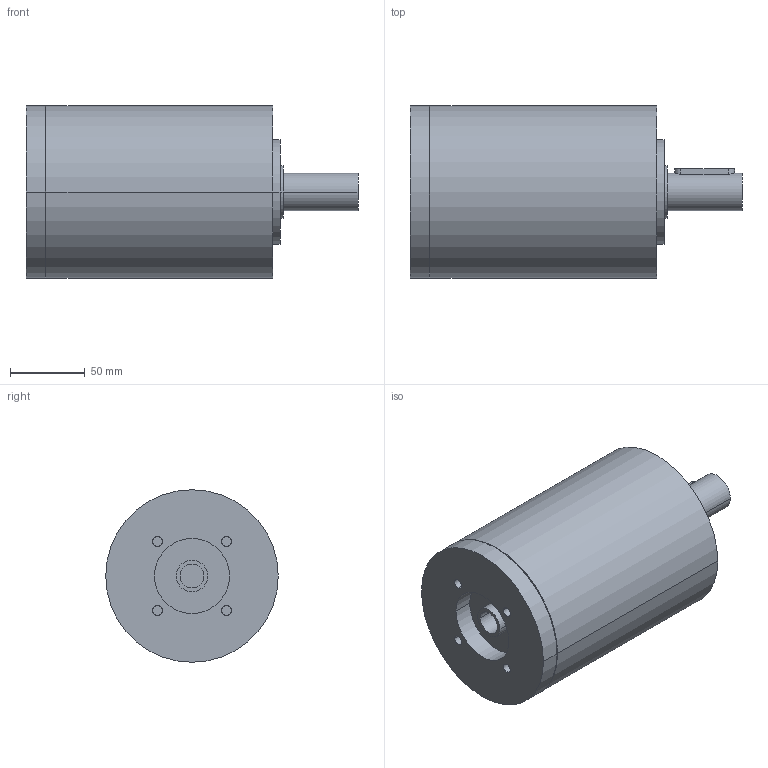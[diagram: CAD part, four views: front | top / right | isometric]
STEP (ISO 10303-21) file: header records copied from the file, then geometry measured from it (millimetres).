
FILE_DESCRIPTION(('CoCreate Modeling STEP Export'),'2;1');
FILE_NAME('GPR125_ig-9-12-16-20-28-35_25_B14_15.87_P10.stp','2014-08-26T14:10:04',(''),(''),'CoCreate Modeling STEP processor for AP214 (Solid Model)','CoCreate Modeling 16.00C 25-Feb-2009 (C) Parametric Technology GmbH','');
FILE_SCHEMA(('AUTOMOTIVE_DESIGN { 1 0 10303 214 1 1 1 1 }'));
Length unit declared in the file: millimetre
Products named in the file (2): GPR125_ig-9-12-16-20-28-35_25_B14_15.87_P10
Assembly tree (1 placements, depth 2):
  GPR125_ig-9-12-16-20-28-35_25_B14_15.87_P10
    GPR125_ig-9-12-16-20-28-35_25_B14_15.87_P10
Bounding box: 221.4 x 115 x 115 mm (x, y, z)
Volume: 1715580.9 mm3; surface area: 94690.2 mm2
Topology: 1 solids, 1 shells, 72 faces, 184 edges, 132 vertices
Faces by surface type: cylinder 44, plane 24, cone 4
Entity records: 1855 total; most frequent: ORIENTED_EDGE 364, CARTESIAN_POINT 346, DIRECTION 238, EDGE_CURVE 182, VERTEX_POINT 132, AXIS2_PLACEMENT_3D 92, EDGE_LOOP 92, FACE_OUTER_BOUND 72
